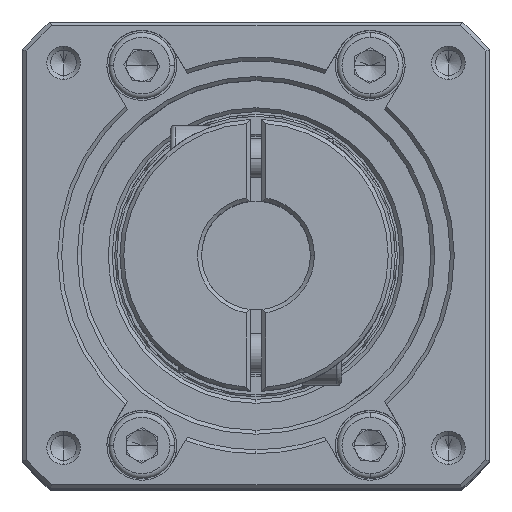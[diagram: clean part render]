
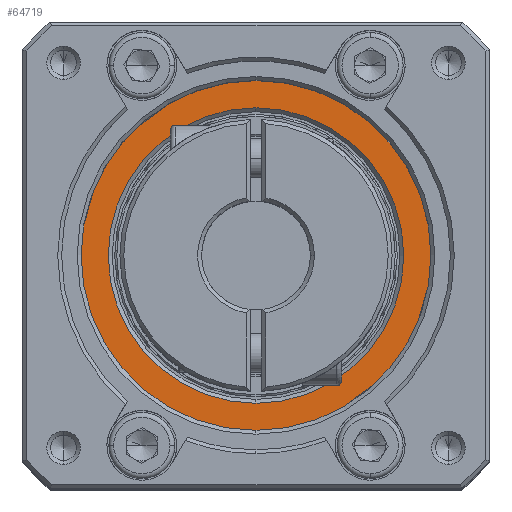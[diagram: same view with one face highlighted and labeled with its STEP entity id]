
A CAD part, top view. The second image highlights one B-rep face of the part: STEP entity #64719.
In plain terms, the highlighted planar face has unit normal (0, 0, 1).
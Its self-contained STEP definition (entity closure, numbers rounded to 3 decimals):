
#592 = DIRECTION ( 'NONE',  ( 0., -1., 0. ) ) ;
#1579 = DIRECTION ( 'NONE',  ( 0., 0., -1. ) ) ;
#3749 = VERTEX_POINT ( 'NONE', #76491 ) ;
#5342 = AXIS2_PLACEMENT_3D ( 'NONE', #105299, #52937, #592 ) ;
#8394 = ORIENTED_EDGE ( 'NONE', *, *, #13952, .T. ) ;
#9594 = CIRCLE ( 'NONE', #20064, 19. ) ;
#13616 = CIRCLE ( 'NONE', #66091, 22.5 ) ;
#13952 = EDGE_CURVE ( 'NONE', #20896, #3749, #9594, .T. ) ;
#20064 = AXIS2_PLACEMENT_3D ( 'NONE', #97287, #44975, #106094 ) ;
#20896 = VERTEX_POINT ( 'NONE', #106695 ) ;
#23713 = EDGE_LOOP ( 'NONE', ( #70277, #8394 ) ) ;
#24718 = ORIENTED_EDGE ( 'NONE', *, *, #108687, .T. ) ;
#31292 = VERTEX_POINT ( 'NONE', #102169 ) ;
#33158 = AXIS2_PLACEMENT_3D ( 'NONE', #53887, #1579, #62700 ) ;
#35409 = VERTEX_POINT ( 'NONE', #96676 ) ;
#39526 = PLANE ( 'NONE',  #89881 ) ;
#41376 = CARTESIAN_POINT ( 'NONE',  ( -26.37, 4.341, 174.002 ) ) ;
#44975 = DIRECTION ( 'NONE',  ( 0., 0., -1. ) ) ;
#48704 = CARTESIAN_POINT ( 'NONE',  ( -26.37, 4.341, 174.002 ) ) ;
#50166 = DIRECTION ( 'NONE',  ( 0., -1., 0. ) ) ;
#52937 = DIRECTION ( 'NONE',  ( 0., 0., 1. ) ) ;
#53887 = CARTESIAN_POINT ( 'NONE',  ( -26.37, 4.341, 174.002 ) ) ;
#56150 = CIRCLE ( 'NONE', #33158, 19. ) ;
#57441 = DIRECTION ( 'NONE',  ( 0., -1., 0. ) ) ;
#61158 = ORIENTED_EDGE ( 'NONE', *, *, #92987, .T. ) ;
#62700 = DIRECTION ( 'NONE',  ( 0., -1., 0. ) ) ;
#64719 = ADVANCED_FACE ( 'NONE', ( #90092, #69636 ), #39526, .T. ) ;
#66091 = AXIS2_PLACEMENT_3D ( 'NONE', #41376, #102489, #50166 ) ;
#69636 = FACE_OUTER_BOUND ( 'NONE', #97462, .T. ) ;
#70277 = ORIENTED_EDGE ( 'NONE', *, *, #71501, .T. ) ;
#71501 = EDGE_CURVE ( 'NONE', #3749, #20896, #56150, .T. ) ;
#76491 = CARTESIAN_POINT ( 'NONE',  ( -26.37, -14.659, 174.002 ) ) ;
#80663 = CIRCLE ( 'NONE', #5342, 22.5 ) ;
#89881 = AXIS2_PLACEMENT_3D ( 'NONE', #48704, #109791, #57441 ) ;
#90092 = FACE_BOUND ( 'NONE', #23713, .T. ) ;
#92987 = EDGE_CURVE ( 'NONE', #35409, #31292, #13616, .T. ) ;
#96676 = CARTESIAN_POINT ( 'NONE',  ( -26.37, -18.159, 174.002 ) ) ;
#97287 = CARTESIAN_POINT ( 'NONE',  ( -26.37, 4.341, 174.002 ) ) ;
#97462 = EDGE_LOOP ( 'NONE', ( #61158, #24718 ) ) ;
#102169 = CARTESIAN_POINT ( 'NONE',  ( -26.37, 26.841, 174.002 ) ) ;
#102489 = DIRECTION ( 'NONE',  ( 0., 0., 1. ) ) ;
#105299 = CARTESIAN_POINT ( 'NONE',  ( -26.37, 4.341, 174.002 ) ) ;
#106094 = DIRECTION ( 'NONE',  ( 0., -1., 0. ) ) ;
#106695 = CARTESIAN_POINT ( 'NONE',  ( -26.37, 23.341, 174.002 ) ) ;
#108687 = EDGE_CURVE ( 'NONE', #31292, #35409, #80663, .T. ) ;
#109791 = DIRECTION ( 'NONE',  ( 0., 0., 1. ) ) ;
